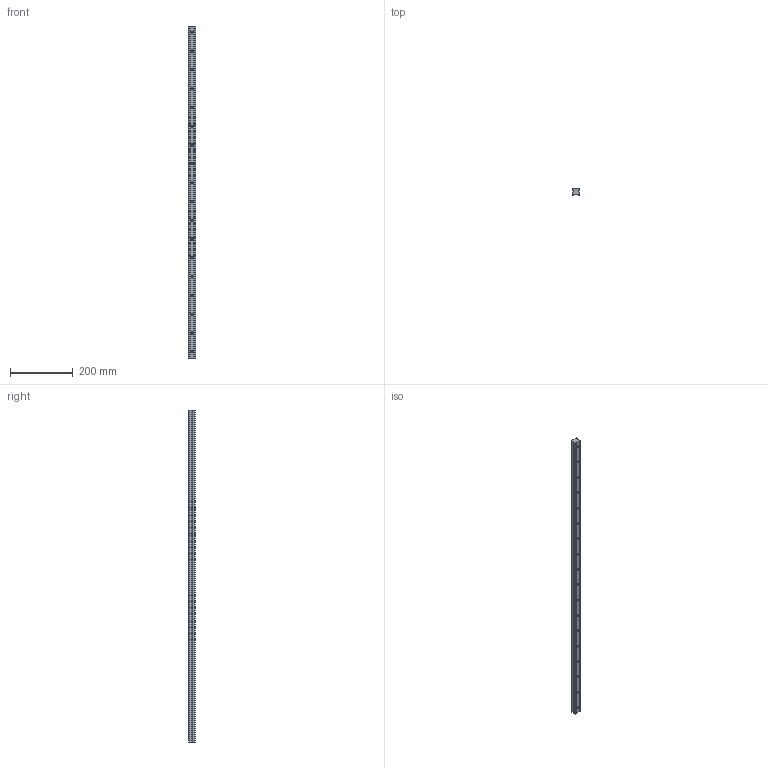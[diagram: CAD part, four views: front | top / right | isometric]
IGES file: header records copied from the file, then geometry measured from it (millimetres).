
Start section: SolidWorks IGES file using analytic representation for surfaces
Global section: file name: C:\Users\IanO\Desktop\L1016_v2\L1016.BL25_v2\L1016.BL25_v2_20160611_IGES\L1016.BL25-1060.igs; native system: SolidWorks 2017; preprocessor: SolidWorks 2017; author: IanO; date: 190612.130641; units: millimetre
Bounding box: 23 x 19.2 x 1060 mm (x, y, z)
Surface area: 100884.3 mm2 (no closed solid volume)
Topology: 0 solids, 0 shells, 116 faces, 2760 edges, 2760 vertices
Faces by surface type: revolution 76, bspline 40
